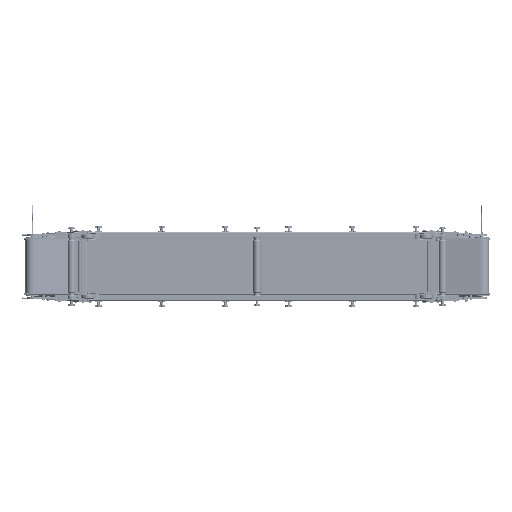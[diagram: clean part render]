
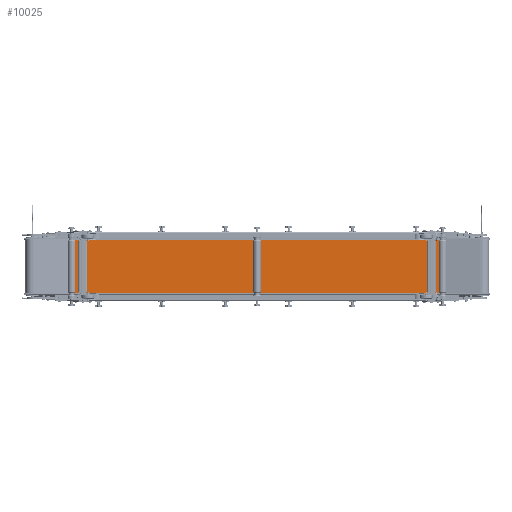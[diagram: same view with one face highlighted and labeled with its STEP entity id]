
A CAD part, front view. The second image highlights one B-rep face of the part: STEP entity #10025.
In plain terms, the highlighted planar face has unit normal (0, -1, 0).
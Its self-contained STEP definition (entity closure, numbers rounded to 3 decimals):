
#6920=PLANE('',#43785);
#10025=ADVANCED_FACE('',(#12174),#6920,.T.);
#12174=FACE_OUTER_BOUND('',#14590,.T.);
#14590=EDGE_LOOP('',(#29391,#29392,#29393,#29394));
#17056=LINE('',#70809,#19793);
#17062=LINE('',#70825,#19799);
#17069=LINE('',#70839,#19806);
#17070=LINE('',#70841,#19807);
#19793=VECTOR('',#52441,1.);
#19799=VECTOR('',#52451,1.);
#19806=VECTOR('',#52464,1.);
#19807=VECTOR('',#52467,1.);
#29391=ORIENTED_EDGE('',*,*,#38869,.T.);
#29392=ORIENTED_EDGE('',*,*,#38861,.T.);
#29393=ORIENTED_EDGE('',*,*,#38854,.F.);
#29394=ORIENTED_EDGE('',*,*,#38868,.F.);
#33793=VERTEX_POINT('',#70763);
#33800=VERTEX_POINT('',#70792);
#33805=VERTEX_POINT('',#70822);
#33810=VERTEX_POINT('',#70838);
#38854=EDGE_CURVE('',#33800,#33793,#17056,.T.);
#38861=EDGE_CURVE('',#33805,#33793,#17062,.T.);
#38868=EDGE_CURVE('',#33810,#33800,#17069,.T.);
#38869=EDGE_CURVE('',#33810,#33805,#17070,.T.);
#43785=AXIS2_PLACEMENT_3D('',#70842,#52468,#52469);
#52441=DIRECTION('',(0.,0.,1.));
#52451=DIRECTION('',(-1.,0.,0.));
#52464=DIRECTION('',(-1.,0.,0.));
#52467=DIRECTION('',(0.,0.,1.));
#52468=DIRECTION('',(0.,-1.,0.));
#52469=DIRECTION('',(0.,0.,1.));
#70763=CARTESIAN_POINT('',(-1079.992,88.5,155.));
#70792=CARTESIAN_POINT('',(-1079.992,88.5,-155.));
#70809=CARTESIAN_POINT('',(-1079.992,88.5,155.));
#70822=CARTESIAN_POINT('',(1080.008,88.5,155.));
#70825=CARTESIAN_POINT('',(-1079.992,88.5,155.));
#70838=CARTESIAN_POINT('',(1080.008,88.5,-155.));
#70839=CARTESIAN_POINT('',(-1079.992,88.5,-155.));
#70841=CARTESIAN_POINT('',(1080.008,88.5,155.));
#70842=CARTESIAN_POINT('',(-1079.992,88.5,155.));
